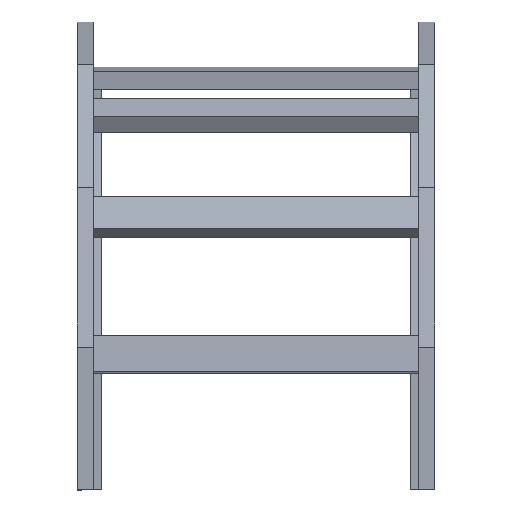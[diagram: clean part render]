
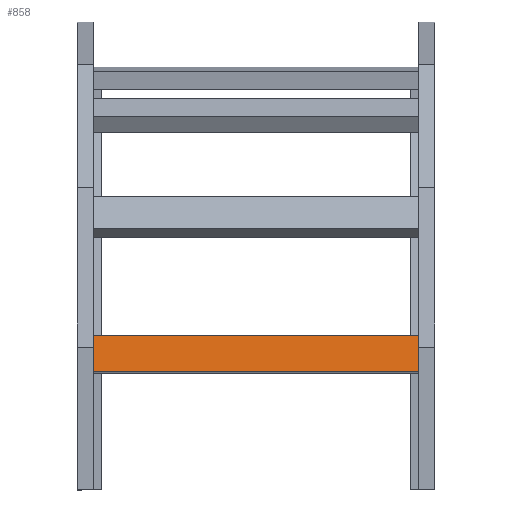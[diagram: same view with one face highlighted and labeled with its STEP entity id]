
A CAD part, top view. The second image highlights one B-rep face of the part: STEP entity #858.
In plain terms, the highlighted planar face has unit normal (0, 0.131, 0.991) as drawn and (0, 1, 0) by its records, which use the part's own axes.
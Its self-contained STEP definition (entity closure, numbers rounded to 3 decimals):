
#140 = DIRECTION ( 'NONE',  ( 0., -1., 0. ) ) ;
#147 = DIRECTION ( 'NONE',  ( 0., 0., 1. ) ) ;
#163 = VERTEX_POINT ( 'NONE', #1517 ) ;
#169 = EDGE_CURVE ( 'NONE', #163, #946, #933, .T. ) ;
#254 = ORIENTED_EDGE ( 'NONE', *, *, #1194, .F. ) ;
#284 = DIRECTION ( 'NONE',  ( 0., 0., -1. ) ) ;
#374 = ORIENTED_EDGE ( 'NONE', *, *, #1108, .T. ) ;
#378 = VECTOR ( 'NONE', #147, 1000. ) ;
#522 = DIRECTION ( 'NONE',  ( -1., 0., 0. ) ) ;
#524 = VECTOR ( 'NONE', #787, 1000. ) ;
#547 = CARTESIAN_POINT ( 'NONE',  ( 198., 20., 20.25 ) ) ;
#608 = CARTESIAN_POINT ( 'NONE',  ( -198., 20., 20.25 ) ) ;
#632 = CARTESIAN_POINT ( 'NONE',  ( 198., 20., 20.25 ) ) ;
#646 = ORIENTED_EDGE ( 'NONE', *, *, #169, .T. ) ;
#656 = VERTEX_POINT ( 'NONE', #608 ) ;
#764 = LINE ( 'NONE', #632, #1875 ) ;
#782 = CARTESIAN_POINT ( 'NONE',  ( 198., 20., -20.25 ) ) ;
#787 = DIRECTION ( 'NONE',  ( 0., 0., 1. ) ) ;
#788 = ORIENTED_EDGE ( 'NONE', *, *, #1366, .F. ) ;
#858 = ADVANCED_FACE ( 'NONE', ( #1436 ), #1292, .F. ) ;
#873 = VECTOR ( 'NONE', #981, 1000. ) ;
#909 = CARTESIAN_POINT ( 'NONE',  ( -198., 20., 20.25 ) ) ;
#933 = LINE ( 'NONE', #782, #873 ) ;
#946 = VERTEX_POINT ( 'NONE', #1000 ) ;
#981 = DIRECTION ( 'NONE',  ( -1., 0., 0. ) ) ;
#982 = EDGE_LOOP ( 'NONE', ( #374, #254, #788, #646 ) ) ;
#1000 = CARTESIAN_POINT ( 'NONE',  ( -198., 20., -20.25 ) ) ;
#1108 = EDGE_CURVE ( 'NONE', #946, #656, #1465, .T. ) ;
#1194 = EDGE_CURVE ( 'NONE', #1774, #656, #764, .T. ) ;
#1292 = PLANE ( 'NONE',  #1624 ) ;
#1298 = CARTESIAN_POINT ( 'NONE',  ( 198., 20., 20.25 ) ) ;
#1360 = CARTESIAN_POINT ( 'NONE',  ( 198., 20., 20.25 ) ) ;
#1366 = EDGE_CURVE ( 'NONE', #163, #1774, #1511, .T. ) ;
#1436 = FACE_OUTER_BOUND ( 'NONE', #982, .T. ) ;
#1465 = LINE ( 'NONE', #909, #378 ) ;
#1511 = LINE ( 'NONE', #1360, #524 ) ;
#1517 = CARTESIAN_POINT ( 'NONE',  ( 198., 20., -20.25 ) ) ;
#1624 = AXIS2_PLACEMENT_3D ( 'NONE', #547, #140, #284 ) ;
#1774 = VERTEX_POINT ( 'NONE', #1298 ) ;
#1875 = VECTOR ( 'NONE', #522, 1000. ) ;
